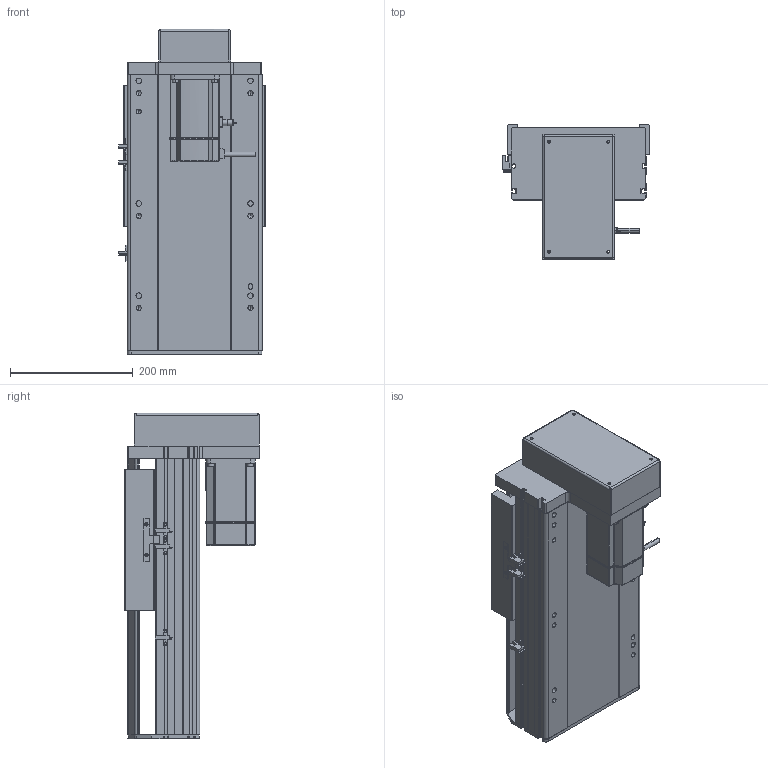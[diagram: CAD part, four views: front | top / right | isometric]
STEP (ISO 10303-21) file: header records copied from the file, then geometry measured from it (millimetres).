
FILE_DESCRIPTION (( 'STEP AP214' ), '1' );
FILE_NAME ('RTH22-XX-150-M-M75-C4.STEP', '2025-10-24T11:05:49', ( 'Microsoft' ), ( 'Microsoft' ), 'SwSTEP 2.0', 'SolidWorks 2018', '' );
FILE_SCHEMA (( 'AUTOMOTIVE_DESIGN' ));
Length unit declared in the file: millimetre
Products named in the file (10): N_RTH22-M-008-P75萇儂啣^RTH22-XX-XX-M-M75-C4; N_RTH22-L-011菁釱^RTH22-XX-XX-M-M75-C4; N_750W萇儂^RTH22-XX-XX-M-M75-C4; RTH22-XX-150-M-M75-C4; N_OMRON EE-SX672 传感器^RTH22-XX-XX-M-M75-C4; N_RTH22-L-004-SFS25賑釱^RTH22-XX-XX-M-M75-C4; N_RTH22-M-018裔赽^RTH22-XX-XX-M-M75-C4; N_RTH22-M-007奻裔^RTH22-XX-XX-M-M75-C4; N_RTH22-GY-013外置感应片^RTH22-XX-XX-M-M75-C4; N_RTH22-GY-001耜裔^RTH22-XX-XX-M-M75-C4
Assembly tree (11 placements, depth 2):
  RTH22-XX-150-M-M75-C4
    N_RTH22-L-011菁釱^RTH22-XX-XX-M-M75-C4
    N_RTH22-GY-001耜裔^RTH22-XX-XX-M-M75-C4
    N_750W萇儂^RTH22-XX-XX-M-M75-C4
    N_RTH22-M-008-P75萇儂啣^RTH22-XX-XX-M-M75-C4
    N_RTH22-M-007奻裔^RTH22-XX-XX-M-M75-C4
    N_RTH22-M-018裔赽^RTH22-XX-XX-M-M75-C4
    N_OMRON EE-SX672 传感器^RTH22-XX-XX-M-M75-C4  x3
    N_RTH22-GY-013外置感应片^RTH22-XX-XX-M-M75-C4
    N_RTH22-L-004-SFS25賑釱^RTH22-XX-XX-M-M75-C4
Bounding box: 238.5 x 218.5 x 529.7 mm (x, y, z)
Volume: 8910339.9 mm3; surface area: 1082400.4 mm2
Topology: 11 solids, 11 shells, 1551 faces, 4230 edges, 2735 vertices
Faces by surface type: plane 799, cylinder 427, bspline 279, cone 46
Entity records: 38367 total; most frequent: CARTESIAN_POINT 11772, ORIENTED_EDGE 5460, DIRECTION 5084, EDGE_CURVE 2730, VERTEX_POINT 1771, VECTOR 1734, LINE 1734, AXIS2_PLACEMENT_3D 1675
